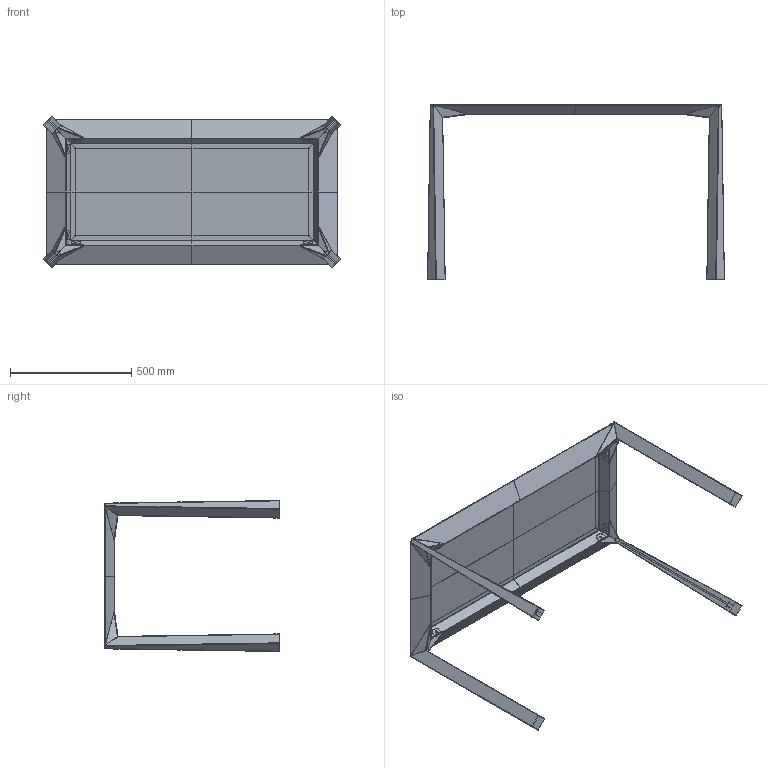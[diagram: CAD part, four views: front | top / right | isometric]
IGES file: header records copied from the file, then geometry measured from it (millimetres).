
Start section:  PTC IGES file: ovidio_asm.igs
Global section: file name: /Users/matteo_studiocdb02/Desktop/SPACE 3d (2)/Ovidio/ovidio 120x60x72h 3D.igs; native system: Rhinoceros ( Oct 18 2012 ); preprocessor: Trout Lake IGES 012 Oct 18 2012; date: 121112.163231; units: millimetre
Bounding box: 1221.92 x 721.53 x 621.92 mm (x, y, z)
Surface area: 3359885.5 mm2 (no closed solid volume)
Topology: 0 solids, 0 shells, 1138 faces, 6092 edges, 6092 vertices
Faces by surface type: bspline 1138
